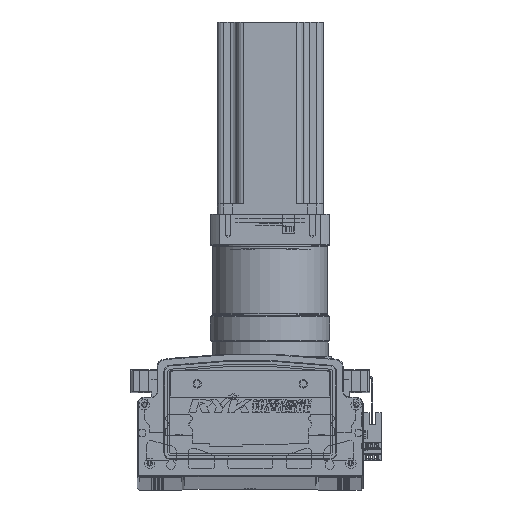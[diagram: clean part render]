
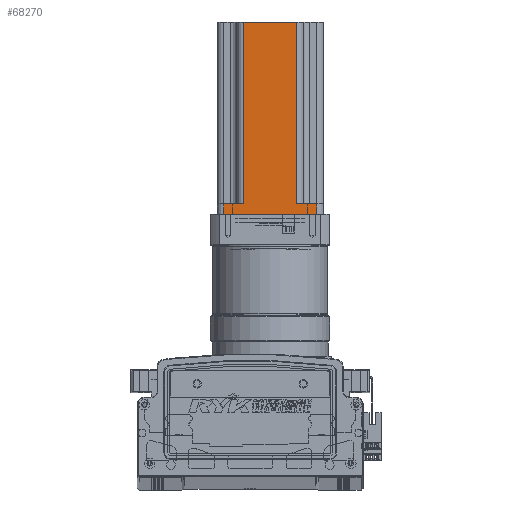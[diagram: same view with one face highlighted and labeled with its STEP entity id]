
A CAD part, top view. The second image highlights one B-rep face of the part: STEP entity #68270.
In plain terms, the highlighted planar face has unit normal (0, 0, 1) as drawn and (0, -1, 0) by its records, which use the part's own axes.
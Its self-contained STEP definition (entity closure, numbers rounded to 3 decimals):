
#5137 = EDGE_CURVE ( 'NONE', #64719, #67377, #10625, .T. ) ;
#5161 = EDGE_CURVE ( 'NONE', #67258, #67295, #10544, .T. ) ;
#5202 = EDGE_CURVE ( 'NONE', #67354, #67377, #10669, .T. ) ;
#5217 = EDGE_CURVE ( 'NONE', #67362, #67467, #10733, .T. ) ;
#5242 = EDGE_CURVE ( 'NONE', #67362, #64642, #10770, .T. ) ;
#5249 = EDGE_CURVE ( 'NONE', #64719, #67258, #10750, .T. ) ;
#5251 = EDGE_CURVE ( 'NONE', #67295, #64642, #10684, .T. ) ;
#5317 = EDGE_CURVE ( 'NONE', #67354, #67467, #10832, .T. ) ;
#10544 = LINE ( 'NONE', #33341, #10548 ) ;
#10548 = VECTOR ( 'NONE', #33347, 1000. ) ;
#10600 = VECTOR ( 'NONE', #45487, 1000. ) ;
#10625 = LINE ( 'NONE', #45472, #10600 ) ;
#10669 = LINE ( 'NONE', #32780, #10723 ) ;
#10684 = LINE ( 'NONE', #29973, #10709 ) ;
#10709 = VECTOR ( 'NONE', #29970, 1000. ) ;
#10713 = VECTOR ( 'NONE', #29926, 1000. ) ;
#10723 = VECTOR ( 'NONE', #32855, 1000. ) ;
#10724 = VECTOR ( 'NONE', #29977, 1000. ) ;
#10733 = LINE ( 'NONE', #29925, #10713 ) ;
#10750 = LINE ( 'NONE', #29972, #10755 ) ;
#10755 = VECTOR ( 'NONE', #29986, 1000. ) ;
#10770 = LINE ( 'NONE', #29956, #10724 ) ;
#10805 = VECTOR ( 'NONE', #30086, 1000. ) ;
#10832 = LINE ( 'NONE', #30016, #10805 ) ;
#29925 = CARTESIAN_POINT ( 'NONE',  ( -27.587, -40.37, 145. ) ) ;
#29926 = DIRECTION ( 'NONE',  ( 0., 0., 1. ) ) ;
#29956 = CARTESIAN_POINT ( 'NONE',  ( -7.587, -40.37, 8. ) ) ;
#29970 = DIRECTION ( 'NONE',  ( 0., 0., 1. ) ) ;
#29972 = CARTESIAN_POINT ( 'NONE',  ( -82.587, -40.37, 145. ) ) ;
#29973 = CARTESIAN_POINT ( 'NONE',  ( -12.587, -40.37, 145. ) ) ;
#29977 = DIRECTION ( 'NONE',  ( 1., 0., 0. ) ) ;
#29986 = DIRECTION ( 'NONE',  ( 0., 0., -1. ) ) ;
#30016 = CARTESIAN_POINT ( 'NONE',  ( -87.587, -40.37, 145. ) ) ;
#30086 = DIRECTION ( 'NONE',  ( 1., 0., 0. ) ) ;
#32780 = CARTESIAN_POINT ( 'NONE',  ( -67.587, -40.37, 145. ) ) ;
#32855 = DIRECTION ( 'NONE',  ( 0., 0., -1. ) ) ;
#33341 = CARTESIAN_POINT ( 'NONE',  ( -87.587, -40.37, 0. ) ) ;
#33347 = DIRECTION ( 'NONE',  ( 1., 0., 0. ) ) ;
#39086 = CARTESIAN_POINT ( 'NONE',  ( -82.587, -40.37, 0. ) ) ;
#39111 = CARTESIAN_POINT ( 'NONE',  ( -12.587, -40.37, 0. ) ) ;
#39241 = CARTESIAN_POINT ( 'NONE',  ( -67.587, -40.37, 145. ) ) ;
#39258 = CARTESIAN_POINT ( 'NONE',  ( -27.587, -40.37, 145. ) ) ;
#39281 = CARTESIAN_POINT ( 'NONE',  ( -67.587, -40.37, 8. ) ) ;
#39318 = CARTESIAN_POINT ( 'NONE',  ( -27.587, -40.37, 8. ) ) ;
#40588 = DIRECTION ( 'NONE',  ( -1., 0., 0. ) ) ;
#40691 = DIRECTION ( 'NONE',  ( 0., 1., 0. ) ) ;
#40735 = CARTESIAN_POINT ( 'NONE',  ( -87.587, -40.37, 145. ) ) ;
#40764 = PLANE ( 'NONE',  #45051 ) ;
#45051 = AXIS2_PLACEMENT_3D ( 'NONE', #40735, #40691, #40588 ) ;
#45472 = CARTESIAN_POINT ( 'NONE',  ( -87.587, -40.37, 8. ) ) ;
#45487 = DIRECTION ( 'NONE',  ( 1., 0., 0. ) ) ;
#48953 = CARTESIAN_POINT ( 'NONE',  ( -82.587, -40.37, 8. ) ) ;
#48984 = CARTESIAN_POINT ( 'NONE',  ( -12.587, -40.37, 8. ) ) ;
#53034 = ORIENTED_EDGE ( 'NONE', *, *, #5137, .F. ) ;
#53086 = ORIENTED_EDGE ( 'NONE', *, *, #5217, .T. ) ;
#53088 = ORIENTED_EDGE ( 'NONE', *, *, #5202, .T. ) ;
#53124 = ORIENTED_EDGE ( 'NONE', *, *, #5161, .T. ) ;
#53128 = ORIENTED_EDGE ( 'NONE', *, *, #5317, .F. ) ;
#53162 = ORIENTED_EDGE ( 'NONE', *, *, #5249, .T. ) ;
#53172 = ORIENTED_EDGE ( 'NONE', *, *, #5251, .T. ) ;
#53265 = ORIENTED_EDGE ( 'NONE', *, *, #5242, .F. ) ;
#56117 = FACE_OUTER_BOUND ( 'NONE', #144486, .T. ) ;
#64642 = VERTEX_POINT ( 'NONE', #48984 ) ;
#64719 = VERTEX_POINT ( 'NONE', #48953 ) ;
#67258 = VERTEX_POINT ( 'NONE', #39086 ) ;
#67295 = VERTEX_POINT ( 'NONE', #39111 ) ;
#67354 = VERTEX_POINT ( 'NONE', #39241 ) ;
#67362 = VERTEX_POINT ( 'NONE', #39318 ) ;
#67377 = VERTEX_POINT ( 'NONE', #39281 ) ;
#67467 = VERTEX_POINT ( 'NONE', #39258 ) ;
#68270 = ADVANCED_FACE ( 'NONE', ( #56117 ), #40764, .F. ) ;
#144486 = EDGE_LOOP ( 'NONE', ( #53034, #53162, #53124, #53172, #53265, #53086, #53128, #53088 ) ) ;
